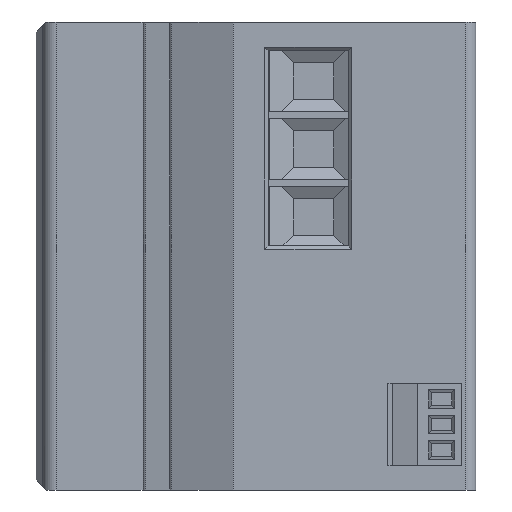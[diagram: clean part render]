
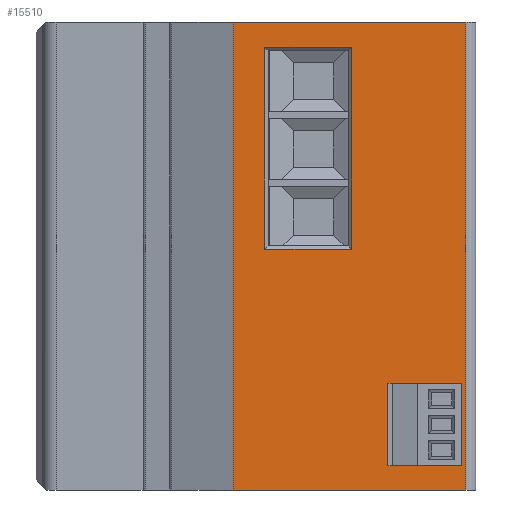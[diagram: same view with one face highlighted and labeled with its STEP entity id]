
A CAD part, left-side view. The second image highlights one B-rep face of the part: STEP entity #15510.
In plain terms, the highlighted planar face has unit normal (-1, 0, 0).
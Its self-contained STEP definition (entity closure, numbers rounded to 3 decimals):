
#631=FACE_BOUND('',#2327,.T.);
#632=FACE_BOUND('',#2328,.T.);
#1436=FACE_OUTER_BOUND('',#2326,.T.);
#2326=EDGE_LOOP('',(#11053,#11054,#11055,#11056));
#2327=EDGE_LOOP('',(#11057,#11058,#11059,#11060));
#2328=EDGE_LOOP('',(#11061,#11062,#11063,#11064));
#3214=LINE('',#22314,#4952);
#3217=LINE('',#22324,#4955);
#3234=LINE('',#22372,#4972);
#3378=LINE('',#22784,#5116);
#3447=LINE('',#22950,#5185);
#3451=LINE('',#22956,#5189);
#3452=LINE('',#22959,#5190);
#3454=LINE('',#22962,#5192);
#3479=LINE('',#23006,#5217);
#3481=LINE('',#23010,#5219);
#3482=LINE('',#23012,#5220);
#3489=LINE('',#23032,#5227);
#4952=VECTOR('',#17881,10.);
#4955=VECTOR('',#17890,10.);
#4972=VECTOR('',#17923,10.);
#5116=VECTOR('',#18275,10.);
#5185=VECTOR('',#18416,10.);
#5189=VECTOR('',#18422,10.);
#5190=VECTOR('',#18425,10.);
#5192=VECTOR('',#18429,10.);
#5217=VECTOR('',#18490,10.);
#5219=VECTOR('',#18494,10.);
#5220=VECTOR('',#18497,10.);
#5227=VECTOR('',#18530,10.);
#6668=VERTEX_POINT('',#22311);
#6669=VERTEX_POINT('',#22313);
#6670=VERTEX_POINT('',#22317);
#6673=VERTEX_POINT('',#22322);
#6696=VERTEX_POINT('',#22370);
#6810=VERTEX_POINT('',#22783);
#6870=VERTEX_POINT('',#22948);
#6871=VERTEX_POINT('',#22949);
#6872=VERTEX_POINT('',#22954);
#6873=VERTEX_POINT('',#22958);
#6874=VERTEX_POINT('',#23004);
#6875=VERTEX_POINT('',#23008);
#8134=EDGE_CURVE('',#6669,#6668,#3214,.T.);
#8139=EDGE_CURVE('',#6673,#6670,#3217,.T.);
#8163=EDGE_CURVE('',#6696,#6673,#3234,.T.);
#8342=EDGE_CURVE('',#6810,#6670,#3378,.T.);
#8421=EDGE_CURVE('',#6870,#6871,#3447,.T.);
#8425=EDGE_CURVE('',#6872,#6870,#3451,.T.);
#8426=EDGE_CURVE('',#6873,#6872,#3452,.T.);
#8428=EDGE_CURVE('',#6871,#6873,#3454,.T.);
#8453=EDGE_CURVE('',#6668,#6874,#3479,.T.);
#8455=EDGE_CURVE('',#6874,#6875,#3481,.T.);
#8456=EDGE_CURVE('',#6875,#6669,#3482,.T.);
#8463=EDGE_CURVE('',#6696,#6810,#3489,.T.);
#11053=ORIENTED_EDGE('',*,*,#8139,.F.);
#11054=ORIENTED_EDGE('',*,*,#8163,.F.);
#11055=ORIENTED_EDGE('',*,*,#8463,.T.);
#11056=ORIENTED_EDGE('',*,*,#8342,.T.);
#11057=ORIENTED_EDGE('',*,*,#8453,.T.);
#11058=ORIENTED_EDGE('',*,*,#8455,.T.);
#11059=ORIENTED_EDGE('',*,*,#8456,.T.);
#11060=ORIENTED_EDGE('',*,*,#8134,.T.);
#11061=ORIENTED_EDGE('',*,*,#8428,.F.);
#11062=ORIENTED_EDGE('',*,*,#8421,.F.);
#11063=ORIENTED_EDGE('',*,*,#8425,.F.);
#11064=ORIENTED_EDGE('',*,*,#8426,.F.);
#14772=PLANE('',#16602);
#15510=ADVANCED_FACE('',(#1436,#631,#632),#14772,.T.);
#16602=AXIS2_PLACEMENT_3D('',#23031,#18528,#18529);
#17881=DIRECTION('',(0.,0.,-1.));
#17890=DIRECTION('',(0.,0.,-1.));
#17923=DIRECTION('',(0.,-1.,0.));
#18275=DIRECTION('',(0.,-1.,0.));
#18416=DIRECTION('',(0.,1.,0.));
#18422=DIRECTION('',(0.,0.,1.));
#18425=DIRECTION('',(0.,-1.,0.));
#18429=DIRECTION('',(0.,0.,-1.));
#18490=DIRECTION('',(0.,1.,0.));
#18494=DIRECTION('',(0.,0.,1.));
#18497=DIRECTION('',(0.,-1.,0.));
#18528=DIRECTION('center_axis',(-1.,0.,0.));
#18529=DIRECTION('ref_axis',(0.,-1.,0.));
#18530=DIRECTION('',(0.,0.,-1.));
#22311=CARTESIAN_POINT('',(-45.,-25.45,-31.35));
#22313=CARTESIAN_POINT('',(-45.,-25.45,-19.03));
#22314=CARTESIAN_POINT('',(-45.,-25.45,-9.515));
#22317=CARTESIAN_POINT('',(-45.,-29.3,-35.));
#22322=CARTESIAN_POINT('',(-45.,-29.3,35.));
#22324=CARTESIAN_POINT('',(-45.,-29.3,17.5));
#22370=CARTESIAN_POINT('',(-45.,5.5,35.));
#22372=CARTESIAN_POINT('',(-45.,19.,35.));
#22783=CARTESIAN_POINT('',(-45.,5.5,-35.));
#22784=CARTESIAN_POINT('',(-45.,-29.35,-35.));
#22948=CARTESIAN_POINT('',(-45.,-12.2,31.2));
#22949=CARTESIAN_POINT('',(-45.,0.8,31.2));
#22950=CARTESIAN_POINT('',(-45.,9.65,31.2));
#22954=CARTESIAN_POINT('',(-45.,-12.2,1.));
#22956=CARTESIAN_POINT('',(-45.,-12.2,15.35));
#22958=CARTESIAN_POINT('',(-45.,0.8,1.));
#22959=CARTESIAN_POINT('',(-45.,3.65,1.));
#22962=CARTESIAN_POINT('',(-45.,0.8,0.75));
#23004=CARTESIAN_POINT('',(-45.,-18.35,-31.35));
#23006=CARTESIAN_POINT('',(-45.,-3.,-31.35));
#23008=CARTESIAN_POINT('',(-45.,-18.35,-19.03));
#23010=CARTESIAN_POINT('',(-45.,-18.35,-15.675));
#23012=CARTESIAN_POINT('',(-45.,0.325,-19.03));
#23031=CARTESIAN_POINT('Origin',(-45.,19.,0.));
#23032=CARTESIAN_POINT('',(-45.,5.5,17.5));
